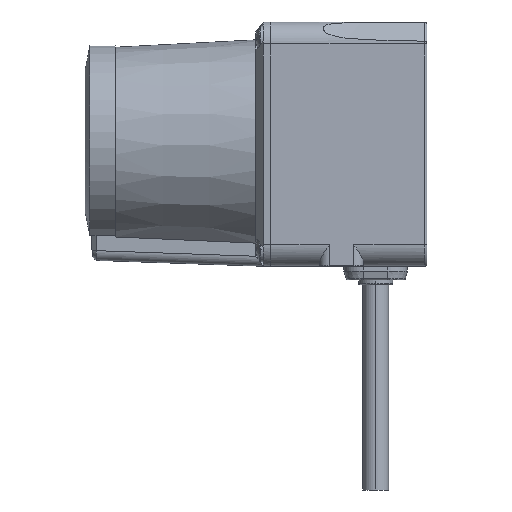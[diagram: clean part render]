
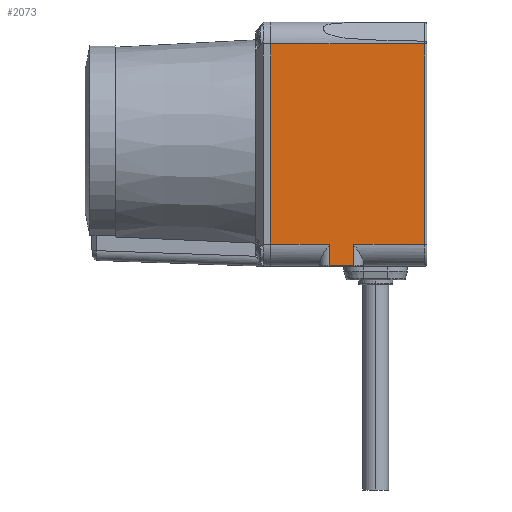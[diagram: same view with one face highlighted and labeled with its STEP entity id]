
A CAD part, left-side view. The second image highlights one B-rep face of the part: STEP entity #2073.
In plain terms, the highlighted planar face has unit normal (-1, -0.009, 0).
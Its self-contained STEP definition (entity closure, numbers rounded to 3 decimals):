
#153 = DIRECTION ( 'NONE',  ( 0., 0., 1. ) ) ;
#180 = ORIENTED_EDGE ( 'NONE', *, *, #15317, .T. ) ;
#796 = ORIENTED_EDGE ( 'NONE', *, *, #14301, .T. ) ;
#897 = VECTOR ( 'NONE', #3351, 1000. ) ;
#1159 = ORIENTED_EDGE ( 'NONE', *, *, #11766, .T. ) ;
#1738 = VECTOR ( 'NONE', #18289, 1000. ) ;
#2011 = VECTOR ( 'NONE', #12144, 1000. ) ;
#2073 = ADVANCED_FACE ( 'NONE', ( #18360 ), #4781, .T. ) ;
#3026 = VERTEX_POINT ( 'NONE', #8212 ) ;
#3079 = CARTESIAN_POINT ( 'NONE',  ( -24.895, 19.983, -20.5 ) ) ;
#3351 = DIRECTION ( 'NONE',  ( 0., 0., -1. ) ) ;
#3418 = CARTESIAN_POINT ( 'NONE',  ( -25., 32., -24.8 ) ) ;
#3449 = CARTESIAN_POINT ( 'NONE',  ( -24.895, 19.983, -24.8 ) ) ;
#3537 = EDGE_CURVE ( 'NONE', #11103, #3026, #4731, .T. ) ;
#4672 = LINE ( 'NONE', #17393, #8521 ) ;
#4731 = LINE ( 'NONE', #3418, #897 ) ;
#4781 = PLANE ( 'NONE',  #5204 ) ;
#4788 = EDGE_CURVE ( 'NONE', #10991, #11103, #12794, .T. ) ;
#5191 = VERTEX_POINT ( 'NONE', #6937 ) ;
#5204 = AXIS2_PLACEMENT_3D ( 'NONE', #10680, #14255, #16128 ) ;
#5712 = ORIENTED_EDGE ( 'NONE', *, *, #8737, .T. ) ;
#5826 = EDGE_CURVE ( 'NONE', #5191, #15066, #18034, .T. ) ;
#6196 = CARTESIAN_POINT ( 'NONE',  ( -24.851, 14.983, -24.8 ) ) ;
#6533 = CARTESIAN_POINT ( 'NONE',  ( -24.864, 16.398, -24.8 ) ) ;
#6631 = EDGE_CURVE ( 'NONE', #11438, #5191, #8237, .T. ) ;
#6937 = CARTESIAN_POINT ( 'NONE',  ( -24.851, 14.983, -20.5 ) ) ;
#7164 = DIRECTION ( 'NONE',  ( 0., 0., 1. ) ) ;
#7337 = EDGE_LOOP ( 'NONE', ( #18454, #16794, #1159, #5712, #796, #8962, #11654, #180 ) ) ;
#7368 = CARTESIAN_POINT ( 'NONE',  ( -24.851, 14.983, -24.8 ) ) ;
#7887 = VERTEX_POINT ( 'NONE', #3079 ) ;
#8212 = CARTESIAN_POINT ( 'NONE',  ( -25., 32., -20.5 ) ) ;
#8237 = LINE ( 'NONE', #7368, #15919 ) ;
#8521 = VECTOR ( 'NONE', #14502, 1000. ) ;
#8737 = EDGE_CURVE ( 'NONE', #7887, #9935, #4672, .T. ) ;
#8825 = CARTESIAN_POINT ( 'NONE',  ( -24.725, 0.496, -24.8 ) ) ;
#8962 = ORIENTED_EDGE ( 'NONE', *, *, #6631, .T. ) ;
#9212 = CARTESIAN_POINT ( 'NONE',  ( -24.864, 16.398, -20.5 ) ) ;
#9682 = LINE ( 'NONE', #9212, #2011 ) ;
#9753 = VECTOR ( 'NONE', #16557, 1000. ) ;
#9935 = VERTEX_POINT ( 'NONE', #3449 ) ;
#10064 = VECTOR ( 'NONE', #153, 1000. ) ;
#10680 = CARTESIAN_POINT ( 'NONE',  ( -25.003, 32.3, -24.8 ) ) ;
#10991 = VERTEX_POINT ( 'NONE', #18121 ) ;
#11103 = VERTEX_POINT ( 'NONE', #14025 ) ;
#11438 = VERTEX_POINT ( 'NONE', #6196 ) ;
#11654 = ORIENTED_EDGE ( 'NONE', *, *, #5826, .T. ) ;
#11766 = EDGE_CURVE ( 'NONE', #3026, #7887, #9682, .T. ) ;
#12144 = DIRECTION ( 'NONE',  ( 0.009, -1., 0. ) ) ;
#12408 = VECTOR ( 'NONE', #14913, 1000. ) ;
#12794 = LINE ( 'NONE', #18384, #1738 ) ;
#13917 = LINE ( 'NONE', #8825, #10064 ) ;
#14025 = CARTESIAN_POINT ( 'NONE',  ( -25., 32., 20.5 ) ) ;
#14255 = DIRECTION ( 'NONE',  ( -1., -0.009, 0. ) ) ;
#14301 = EDGE_CURVE ( 'NONE', #9935, #11438, #16969, .T. ) ;
#14502 = DIRECTION ( 'NONE',  ( 0., 0., -1. ) ) ;
#14796 = CARTESIAN_POINT ( 'NONE',  ( -24.864, 16.398, -20.5 ) ) ;
#14913 = DIRECTION ( 'NONE',  ( 0.009, -1., 0. ) ) ;
#15066 = VERTEX_POINT ( 'NONE', #17150 ) ;
#15317 = EDGE_CURVE ( 'NONE', #15066, #10991, #13917, .T. ) ;
#15919 = VECTOR ( 'NONE', #7164, 1000. ) ;
#16128 = DIRECTION ( 'NONE',  ( 0.009, -1., 0. ) ) ;
#16557 = DIRECTION ( 'NONE',  ( 0.009, -1., 0. ) ) ;
#16794 = ORIENTED_EDGE ( 'NONE', *, *, #3537, .T. ) ;
#16969 = LINE ( 'NONE', #6533, #9753 ) ;
#17150 = CARTESIAN_POINT ( 'NONE',  ( -24.725, 0.496, -20.5 ) ) ;
#17393 = CARTESIAN_POINT ( 'NONE',  ( -24.895, 19.983, -22.637 ) ) ;
#18034 = LINE ( 'NONE', #14796, #12408 ) ;
#18121 = CARTESIAN_POINT ( 'NONE',  ( -24.725, 0.496, 20.5 ) ) ;
#18289 = DIRECTION ( 'NONE',  ( -0.009, 1., 0. ) ) ;
#18360 = FACE_OUTER_BOUND ( 'NONE', #7337, .T. ) ;
#18384 = CARTESIAN_POINT ( 'NONE',  ( -24.864, 16.398, 20.5 ) ) ;
#18454 = ORIENTED_EDGE ( 'NONE', *, *, #4788, .T. ) ;
